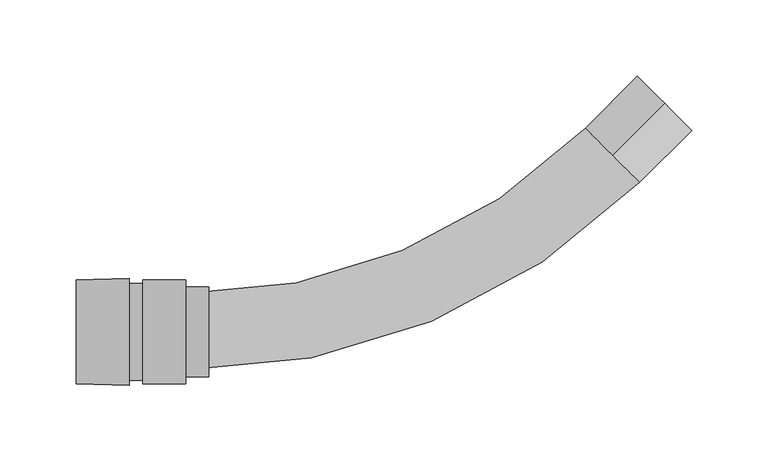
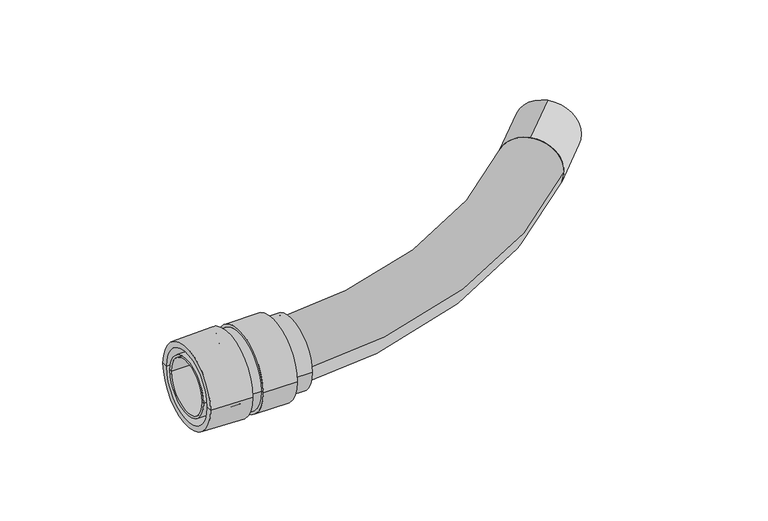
"""IFC4 building model written with IfcOpenShell, lengths in millimetres: cable carrier fitting geometry, КНС_МуфтаГибкаяТрубаКоробка_IP65_DKC : Коробка."""

import ifcopenshell
import ifcopenshell.guid

model = None  # the IFC model being written
_history = None  # IfcOwnerHistory: only IFC2X3 demands one
_inside = {}  # id of a spatial element -> (the spatial element, [elements in it])
_under = {}  # id of a project, library or spatial element -> (it, [spatial elements below it])
_declared = {}  # id of a project -> (the project, [libraries it declares])
_typed = {}  # id of a type object -> (the type object, [elements of that type])
_made_of = {}  # id of a material, layer set ... -> (it, [elements and type objects made of it])


def new_model(schema):
    """Start an empty IFC model of exactly this schema.

    Asked for "IFC4X3", IfcOpenShell would pick the latest addendum, in which some entities
    have other attributes; the version numbers below select the first issue.
    IFC2X3 requires an IfcOwnerHistory on every rooted entity: one is made here for all.
    """
    global model, _history
    if schema == "IFC4X3":
        model = ifcopenshell.file(schema_version=(4, 3, 0, 0))
    else:
        model = ifcopenshell.file(schema=schema)
    _inside.clear()
    _under.clear()
    _declared.clear()
    _typed.clear()
    _made_of.clear()
    _history = None
    if model.schema == "IFC2X3":
        org = make("IfcOrganization", Name="unknown")
        user = make(
            "IfcPersonAndOrganization",
            ThePerson=make("IfcPerson", FamilyName="unknown"),
            TheOrganization=org,
        )
        app = make(
            "IfcApplication",
            ApplicationDeveloper=org,
            Version="unknown",
            ApplicationFullName="unknown",
            ApplicationIdentifier="unknown",
        )
        _history = make(
            "IfcOwnerHistory",
            OwningUser=user,
            OwningApplication=app,
            ChangeAction="ADDED",
            CreationDate=0,
        )
    return model


def make(cls, **values):
    """One entity of the class cls with the attributes given. An attribute that is None is left unset."""
    return model.create_entity(
        cls, **{name: value for name, value in values.items() if value is not None}
    )


def rooted(cls, **values):
    """An entity with a GlobalId (a new one), such as an element, a storey or a relation."""
    return make(cls, GlobalId=ifcopenshell.guid.new(), OwnerHistory=_history, **values)


def si_unit(unit_type, name, prefix=None):
    """IfcSIUnit, for example si_unit("LENGTHUNIT", "METRE", prefix="MILLI")."""
    return make("IfcSIUnit", UnitType=unit_type, Prefix=prefix, Name=name)


def assignment(units):
    """IfcUnitAssignment: the units of a project."""
    return None if units is None else make("IfcUnitAssignment", Units=units)


def point(xyz):
    """IfcCartesianPoint."""
    return None if xyz is None else make("IfcCartesianPoint", Coordinates=xyz)


def direction(xyz):
    """IfcDirection."""
    return None if xyz is None else make("IfcDirection", DirectionRatios=xyz)


def frame(location, z_axis=None, x_axis=None):
    """IfcAxis2Placement3D, a coordinate frame: its origin and axes. An axis left out is left unset."""
    return make(
        "IfcAxis2Placement3D",
        Location=point(location),
        Axis=direction(z_axis),
        RefDirection=direction(x_axis),
    )


def frame_2d(location, x_axis=None):
    """IfcAxis2Placement2D, a coordinate frame in the plane: its origin and x axis."""
    return make(
        "IfcAxis2Placement2D", Location=point(location), RefDirection=direction(x_axis)
    )


def origin():
    """The frame at (0, 0, 0) with its axes left unset."""
    return frame((0.0, 0.0, 0.0))


def place(relative_to, where):
    """IfcLocalPlacement: puts the frame where relative to a parent placement (None: the world)."""
    return make(
        "IfcLocalPlacement", PlacementRelTo=relative_to, RelativePlacement=where
    )


def context(
    kind, dimensions, precision=None, world=None, true_north=None, identifier=None
):
    """IfcGeometricRepresentationContext, for example the 3D "Model" context."""
    return make(
        "IfcGeometricRepresentationContext",
        ContextIdentifier=identifier,
        ContextType=kind,
        CoordinateSpaceDimension=dimensions,
        Precision=precision,
        WorldCoordinateSystem=world,
        TrueNorth=true_north,
    )


def project(units=None, contexts=None):
    """IfcProject with its units and contexts."""
    return rooted(
        "IfcProject",
        Name="project",
        RepresentationContexts=contexts,
        UnitsInContext=assignment(units),
    )


def spatial(cls, under=None, at=None, **own):
    """A site, building, storey or space (cls), placed at a placement, below another one or the project."""
    s = rooted(cls, ObjectPlacement=at, **own)
    if under is not None:
        _under.setdefault(under.id(), (under, []))[1].append(s)
    return s


def polyline(points):
    """IfcPolyline through the points."""
    return make("IfcPolyline", Points=[point(p) for p in points])


def circle_curve(where, radius):
    """IfcCircle in the frame where."""
    return make("IfcCircle", Position=where, Radius=radius)


def ellipse_curve(where, semi_axis1, semi_axis2):
    """IfcEllipse in the frame where."""
    return make(
        "IfcEllipse", Position=where, SemiAxis1=semi_axis1, SemiAxis2=semi_axis2
    )


def trimmed(basis, trim1, trim2, sense, master):
    """IfcTrimmedCurve: the piece of a basis curve between two trims."""
    return make(
        "IfcTrimmedCurve",
        BasisCurve=basis,
        Trim1=trim1,
        Trim2=trim2,
        SenseAgreement=sense,
        MasterRepresentation=master,
    )


def segment(curve, same_sense, transition):
    """IfcCompositeCurveSegment."""
    return make(
        "IfcCompositeCurveSegment",
        Transition=transition,
        SameSense=same_sense,
        ParentCurve=curve,
    )


def composite_curve(segments, self_intersect=None):
    """IfcCompositeCurve: segments joined end to end."""
    return make("IfcCompositeCurve", Segments=segments, SelfIntersect=self_intersect)


def outline(outer, holes=None, kind="AREA"):
    """IfcArbitraryClosedProfileDef: a profile drawn as a closed curve; with holes, ...WithVoids."""
    if holes is None:
        return make("IfcArbitraryClosedProfileDef", ProfileType=kind, OuterCurve=outer)
    return make(
        "IfcArbitraryProfileDefWithVoids",
        ProfileType=kind,
        OuterCurve=outer,
        InnerCurves=holes,
    )


def extrude(swept, where, along, depth):
    """IfcExtrudedAreaSolid: the profile swept, set in the frame where, extruded along a direction by depth."""
    return make(
        "IfcExtrudedAreaSolid",
        SweptArea=swept,
        Position=where,
        ExtrudedDirection=direction(along),
        Depth=depth,
    )


def shape(context_of_items, identifier, shape_type, items):
    """IfcShapeRepresentation: the items that make up one representation, for example the "Body"."""
    return make(
        "IfcShapeRepresentation",
        ContextOfItems=context_of_items,
        RepresentationIdentifier=identifier,
        RepresentationType=shape_type,
        Items=items,
    )


def source(mapping_origin, context_of_items, identifier, shape_type, items):
    """IfcRepresentationMap: a shape defined once, which mapped items show again and again."""
    return make(
        "IfcRepresentationMap",
        MappingOrigin=mapping_origin,
        MappedRepresentation=shape(context_of_items, identifier, shape_type, items),
    )


def transform(
    local_origin,
    x_axis=None,
    y_axis=None,
    z_axis=None,
    scale=None,
    scale2=None,
    scale3=None,
    uniform=True,
):
    """IfcCartesianTransformationOperator3D, or its non-uniform kind. x_axis, y_axis, z_axis: its Axis1, 2, 3."""
    if uniform:
        return make(
            "IfcCartesianTransformationOperator3D",
            Axis1=direction(x_axis),
            Axis2=direction(y_axis),
            LocalOrigin=point(local_origin),
            Scale=scale,
            Axis3=direction(z_axis),
        )
    return make(
        "IfcCartesianTransformationOperator3DnonUniform",
        Axis1=direction(x_axis),
        Axis2=direction(y_axis),
        LocalOrigin=point(local_origin),
        Scale=scale,
        Axis3=direction(z_axis),
        Scale2=scale2,
        Scale3=scale3,
    )


def mapped(mapping_source, mapping_target):
    """IfcMappedItem: shows the shape of a source again, moved by a transform."""
    return make(
        "IfcMappedItem", MappingSource=mapping_source, MappingTarget=mapping_target
    )


def made_of(thing, what):
    """Note that an element or type object is made of a material, layer set ...; save() writes the relation."""
    if what is not None:
        _made_of.setdefault(what.id(), (what, []))[1].append(thing)
    return thing


def element(
    cls,
    number,
    at=None,
    inside=None,
    cuts=None,
    type_object=None,
    material=None,
    context=None,
    identifier="Body",
    shape_type=None,
    held_by="IfcProductDefinitionShape",
    body=None,
    shapes=None,
    **own,
):
    """One element of the class cls, such as IfcWall. Its Tag is "e" and its number.

    at: its placement. inside: the storey or other place that contains it. cuts: it is an
    opening in that element (IfcRelVoidsElement). A single representation is given by context,
    identifier, shape_type and body (its items); several are given by shapes. held_by: the class
    of the entity that holds the representations. save() writes the other relations.
    """
    e = rooted(cls, Tag="e%d" % number, ObjectPlacement=at, **own)
    if body is not None:
        shapes = [shape(context, identifier, shape_type, body)]
    if shapes is not None:
        e.Representation = make(held_by, Representations=shapes)
    if inside is not None:
        _inside.setdefault(inside.id(), (inside, []))[1].append(e)
    if cuts is not None:
        rooted(
            "IfcRelVoidsElement", RelatingBuildingElement=cuts, RelatedOpeningElement=e
        )
    if type_object is not None:
        _typed.setdefault(type_object.id(), (type_object, []))[1].append(e)
    return made_of(e, material)


def aggregate(whole, parts):
    """IfcRelAggregates: a whole, such as a stair, and the parts it consists of."""
    return rooted("IfcRelAggregates", RelatingObject=whole, RelatedObjects=parts)


def save(model, path):
    """Write the relations noted so far, then the file.

    IfcRelAggregates (storeys below a building ...), IfcRelContainedInSpatialStructure (elements
    in a storey), IfcRelDefinesByType, IfcRelAssociatesMaterial and IfcRelDeclares: one each for
    every whole, place, type object, material and project.
    """
    for whole, parts in _under.values():
        aggregate(whole, parts)
    for where, things in _inside.values():
        rooted(
            "IfcRelContainedInSpatialStructure",
            RelatedElements=things,
            RelatingStructure=where,
        )
    for kind, things in _typed.values():
        rooted("IfcRelDefinesByType", RelatedObjects=things, RelatingType=kind)
    for what, things in _made_of.values():
        rooted("IfcRelAssociatesMaterial", RelatedObjects=things, RelatingMaterial=what)
    for by, libraries in _declared.values():
        rooted("IfcRelDeclares", RelatingContext=by, RelatedDefinitions=libraries)
    model.write(path)


def plane_surface(at):
    """IfcPlane: the flat surface through the origin of the frame at, square to its z axis."""
    return make("IfcPlane", Position=at)


def cylinder_surface(at, radius):
    """IfcCylindricalSurface: all points at the distance radius from the z axis of the frame at."""
    return make("IfcCylindricalSurface", Position=at, Radius=radius)


def revolved_surface(curve, axis_point, axis_direction):
    """IfcSurfaceOfRevolution: the curve turned about the line through axis_point along axis_direction."""
    return make(
        "IfcSurfaceOfRevolution",
        SweptCurve=make("IfcArbitraryOpenProfileDef", ProfileType="CURVE", Curve=curve),
        AxisPosition=make("IfcAxis1Placement", Location=point(axis_point), Axis=direction(axis_direction)),
    )


def advanced_brep(points, edges, surfaces, faces):
    """IfcAdvancedBrep: a solid bounded by faces that lie on surfaces and meet in shared edges.

    An edge is (start, end): straight between two places in points (the first is 0);
    or (start, end, curve); or (start, end, curve, False) where it runs against its curve.
    A face is (place in surfaces, loops), or (place, loops, False) where it looks against
    its surface's normal. A loop lists edges by number (the first is 1), with a minus sign
    where the edge is run from its end to its start. The first loop is the outer one.
    """
    corners = [point(p) for p in points]
    vertices = [make("IfcVertexPoint", VertexGeometry=c) for c in corners]
    made = []
    for start, end, *more in edges:
        made.append(
            make(
                "IfcEdgeCurve",
                EdgeStart=vertices[start],
                EdgeEnd=vertices[end],
                EdgeGeometry=more[0] if more else make("IfcPolyline", Points=[corners[start], corners[end]]),
                SameSense=more[1] if len(more) > 1 else True,
            )
        )
    hull = []
    for where, loops, *sense in faces:
        bounds = []
        for j, loop in enumerate(loops):
            ring = [make("IfcOrientedEdge", EdgeElement=made[abs(k) - 1], Orientation=k > 0) for k in loop]
            bounds.append(
                make(
                    "IfcFaceOuterBound" if j == 0 else "IfcFaceBound",
                    Bound=make("IfcEdgeLoop", EdgeList=ring),
                    Orientation=True,
                )
            )
        hull.append(make("IfcAdvancedFace", Bounds=bounds, FaceSurface=surfaces[where], SameSense=sense[0] if sense else True))
    return make("IfcAdvancedBrep", Outer=make("IfcClosedShell", CfsFaces=hull))


def cable_carrier_fitting_b6fb6266(model_context):
    return source(origin(), model_context, "Body", "SolidModel", [
        advanced_brep(
        [(-148.4918571, -27.4353846, 0.0), (-148.4918571, 27.4353846, 0.0), (-200.4918571, 27.4353846, 0.0), (-200.4918571, -27.4353846, 0.0), (-148.4918571, -29.5, 0.0), (-148.4918571, 29.5, 0.0), (-163.4918571, -29.5, 0.0), (-163.4918571, 29.5, 0.0), (-163.4918571, -34.0, 0.0), (-163.4918571, 34.0, 0.0), (-191.4918571, -34.0, 0.0), (-191.4918571, 34.0, 0.0), (-191.4918571, -31.75, 0.0), (-191.4918571, 31.75, 0.0), (-200.4918571, -31.75, 0.0), (-200.4918571, 31.75, 0.0)],
        [
            (0, 1, circle_curve(frame((-148.4918571, 0.0, 0.0), z_axis=(1.0, 0.0, 0.0), x_axis=(0.0, 1.0, 0.0)), 27.4353846)),
            (1, 2),
            (2, 3, circle_curve(frame((-200.4918571, 0.0, 0.0), z_axis=(-1.0, 0.0, 0.0), x_axis=(0.0, 1.0, 0.0)), 27.4353846)),
            (3, 0),
            (1, 0, circle_curve(frame((-148.4918571, 0.0, 0.0), z_axis=(1.0, 0.0, 0.0), x_axis=(0.0, 1.0, 0.0)), 27.4353846)),
            (3, 2, circle_curve(frame((-200.4918571, 0.0, 0.0), z_axis=(-1.0, 0.0, 0.0), x_axis=(0.0, 1.0, 0.0)), 27.4353846)),
            (4, 5, circle_curve(frame((-148.4918571, 0.0, 0.0), z_axis=(1.0, 0.0, 0.0), x_axis=(0.0, 1.0, 0.0)), 29.5)),
            (5, 1),
            (0, 4),
            (5, 4, circle_curve(frame((-148.4918571, 0.0, 0.0), z_axis=(1.0, 0.0, 0.0), x_axis=(0.0, 1.0, 0.0)), 29.5)),
            (6, 7, circle_curve(frame((-163.4918571, 0.0, 0.0), z_axis=(1.0, 0.0, 0.0), x_axis=(0.0, 1.0, 0.0)), 29.5)),
            (7, 5),
            (4, 6),
            (7, 6, circle_curve(frame((-163.4918571, 0.0, 0.0), z_axis=(1.0, 0.0, 0.0), x_axis=(0.0, 1.0, 0.0)), 29.5)),
            (8, 9, circle_curve(frame((-163.4918571, 0.0, 0.0), z_axis=(1.0, 0.0, 0.0), x_axis=(0.0, 1.0, 0.0)), 34.0)),
            (9, 7),
            (6, 8),
            (9, 8, circle_curve(frame((-163.4918571, 0.0, 0.0), z_axis=(1.0, 0.0, 0.0), x_axis=(0.0, 1.0, 0.0)), 34.0)),
            (10, 11, circle_curve(frame((-191.4918571, 0.0, 0.0), z_axis=(1.0, 0.0, 0.0), x_axis=(0.0, 1.0, 0.0)), 34.0)),
            (11, 9),
            (8, 10),
            (11, 10, circle_curve(frame((-191.4918571, 0.0, 0.0), z_axis=(1.0, 0.0, 0.0), x_axis=(0.0, 1.0, 0.0)), 34.0)),
            (12, 13, circle_curve(frame((-191.4918571, 0.0, 0.0), z_axis=(1.0, 0.0, 0.0), x_axis=(0.0, 1.0, 0.0)), 31.75)),
            (13, 11),
            (10, 12),
            (13, 12, circle_curve(frame((-191.4918571, 0.0, 0.0), z_axis=(1.0, 0.0, 0.0), x_axis=(0.0, 1.0, 0.0)), 31.75)),
            (14, 15, circle_curve(frame((-200.4918571, 0.0, 0.0), z_axis=(1.0, 0.0, 0.0), x_axis=(0.0, 1.0, 0.0)), 31.75)),
            (15, 13),
            (12, 14),
            (15, 14, circle_curve(frame((-200.4918571, 0.0, 0.0), z_axis=(1.0, 0.0, 0.0), x_axis=(0.0, 1.0, 0.0)), 31.75)),
            (2, 15),
            (14, 3),
        ],
        [
            revolved_surface(polyline([(-200.49185710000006, 27.4353846, 0.0), (-148.49185710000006, 27.4353846, 0.0)]), (1340.0081429, 0.0, 0.0), (-1.0, 0.0, 0.0)),
            plane_surface(frame((-148.4918571, 0.0, 0.0), z_axis=(1.0, 0.0, 0.0), x_axis=(0.0, 1.0, 0.0))),
            cylinder_surface(frame((1340.0081429, 0.0, 0.0), z_axis=(-1.0, 0.0, 0.0), x_axis=(0.0, 1.0, 0.0)), 29.5),
            plane_surface(frame((-163.4918571, 0.0, 0.0), z_axis=(1.0, 0.0, 0.0), x_axis=(0.0, 1.0, 0.0))),
            cylinder_surface(frame((1340.0081429, 0.0, 0.0), z_axis=(-1.0, 0.0, 0.0), x_axis=(0.0, 1.0, 0.0)), 34.0),
            plane_surface(frame((-191.4918571, 0.0, 0.0), z_axis=(-1.0, 0.0, 0.0), x_axis=(0.0, 1.0, 0.0))),
            cylinder_surface(frame((1340.0081429, 0.0, 0.0), z_axis=(-1.0, 0.0, 0.0), x_axis=(0.0, 1.0, 0.0)), 31.75),
            plane_surface(frame((-200.4918571, 0.0, 0.0), z_axis=(-1.0, 0.0, 0.0), x_axis=(0.0, 1.0, 0.0))),
        ],
        [
            (0, [[1, 2, 3, 4]]),
            (0, [[5, -4, 6, -2]]),
            (1, [[7, 8, -1, 9]]),
            (1, [[10, -9, -5, -8]]),
            (2, [[11, 12, -7, 13]]),
            (2, [[14, -13, -10, -12]]),
            (3, [[15, 16, -11, 17]]),
            (3, [[18, -17, -14, -16]]),
            (4, [[19, 20, -15, 21]]),
            (4, [[22, -21, -18, -20]]),
            (5, [[23, 24, -19, 25]]),
            (5, [[26, -25, -22, -24]]),
            (6, [[27, 28, -23, 29]]),
            (6, [[30, -29, -26, -28]]),
            (7, [[-3, 31, -27, 32]]),
            (7, [[-6, -32, -30, -31]]),
        ],
    ),
        advanced_brep(
        [(-200.4918571, -35.0, 0.0), (-200.4918571, 35.0, 0.0), (-200.4918571, 29.5, 0.0), (-200.4918571, -29.5, 0.0), (-234.9918571, -34.0, 0.0), (-234.9918571, 34.0, 0.0), (-234.9918571, -29.5, 0.0), (-234.9918571, 29.5, 0.0)],
        [
            (0, 1, circle_curve(frame((-200.4918571, 0.0, 0.0), z_axis=(1.0, 0.0, 0.0), x_axis=(0.0, 1.0, 0.0)), 35.0)),
            (1, 2),
            (2, 3, circle_curve(frame((-200.4918571, 0.0, 0.0), z_axis=(-1.0, 0.0, 0.0), x_axis=(0.0, 1.0, 0.0)), 29.5)),
            (3, 0),
            (1, 0, circle_curve(frame((-200.4918571, 0.0, 0.0), z_axis=(1.0, 0.0, 0.0), x_axis=(0.0, 1.0, 0.0)), 35.0)),
            (3, 2, circle_curve(frame((-200.4918571, 0.0, 0.0), z_axis=(-1.0, 0.0, 0.0), x_axis=(0.0, 1.0, 0.0)), 29.5)),
            (4, 5, circle_curve(frame((-234.9918571, 0.0, 0.0), z_axis=(1.0, 0.0, 0.0), x_axis=(0.0, 1.0, 0.0)), 34.0)),
            (5, 1),
            (0, 4),
            (5, 4, circle_curve(frame((-234.9918571, 0.0, 0.0), z_axis=(1.0, 0.0, 0.0), x_axis=(0.0, 1.0, 0.0)), 34.0)),
            (6, 7, circle_curve(frame((-234.9918571, 0.0, 0.0), z_axis=(1.0, 0.0, 0.0), x_axis=(0.0, 1.0, 0.0)), 29.5)),
            (7, 5),
            (4, 6),
            (7, 6, circle_curve(frame((-234.9918571, 0.0, 0.0), z_axis=(1.0, 0.0, 0.0), x_axis=(0.0, 1.0, 0.0)), 29.5)),
            (2, 7),
            (6, 3),
        ],
        [
            plane_surface(frame((-200.4918571, 0.0, 0.0), z_axis=(1.0, 0.0, 0.0), x_axis=(0.0, 1.0, 0.0))),
            revolved_surface(polyline([(-200.4918571, 35.0, 0.0), (-234.9918571, 34.0, 0.0)]), (1340.0081429, 0.0, 0.0), (-1.0, 0.0, 0.0)),
            plane_surface(frame((-234.9918571, 0.0, 0.0), z_axis=(-1.0, 0.0, 0.0), x_axis=(0.0, 1.0, 0.0))),
            revolved_surface(polyline([(-234.99185710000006, 29.5, 0.0), (-200.49185710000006, 29.5, 0.0)]), (1340.0081429, 0.0, 0.0), (-1.0, 0.0, 0.0)),
        ],
        [
            (0, [[1, 2, 3, 4]]),
            (0, [[5, -4, 6, -2]]),
            (1, [[7, 8, -1, 9]]),
            (1, [[10, -9, -5, -8]]),
            (2, [[11, 12, -7, 13]]),
            (2, [[14, -13, -10, -12]]),
            (3, [[-3, 15, -11, 16]]),
            (3, [[-6, -16, -14, -15]]),
        ],
    ),
        advanced_brep(
        [(-234.9918571, -24.0, 0.0), (-234.9918571, 24.0, 0.0), (-200.4918571, 24.0, 0.0), (-200.4918571, -24.0, 0.0), (-234.9918571, -22.0, 0.0), (-234.9918571, 22.0, 0.0), (-200.4918571, -22.0, 0.0), (-200.4918571, 22.0, 0.0)],
        [
            (0, 1, circle_curve(frame((-234.9918571, 0.0, 0.0), z_axis=(1.0, 0.0, 0.0), x_axis=(0.0, 1.0, 0.0)), 24.0)),
            (1, 2),
            (2, 3, circle_curve(frame((-200.4918571, 0.0, 0.0), z_axis=(-1.0, 0.0, 0.0), x_axis=(0.0, 1.0, 0.0)), 24.0)),
            (3, 0),
            (1, 0, circle_curve(frame((-234.9918571, 0.0, 0.0), z_axis=(1.0, 0.0, 0.0), x_axis=(0.0, 1.0, 0.0)), 24.0)),
            (3, 2, circle_curve(frame((-200.4918571, 0.0, 0.0), z_axis=(-1.0, 0.0, 0.0), x_axis=(0.0, 1.0, 0.0)), 24.0)),
            (4, 5, circle_curve(frame((-234.9918571, 0.0, 0.0), z_axis=(1.0, 0.0, 0.0), x_axis=(0.0, 1.0, 0.0)), 22.0)),
            (5, 1),
            (0, 4),
            (5, 4, circle_curve(frame((-234.9918571, 0.0, 0.0), z_axis=(1.0, 0.0, 0.0), x_axis=(0.0, 1.0, 0.0)), 22.0)),
            (6, 7, circle_curve(frame((-200.4918571, 0.0, 0.0), z_axis=(1.0, 0.0, 0.0), x_axis=(0.0, 1.0, 0.0)), 22.0)),
            (7, 5),
            (4, 6),
            (7, 6, circle_curve(frame((-200.4918571, 0.0, 0.0), z_axis=(1.0, 0.0, 0.0), x_axis=(0.0, 1.0, 0.0)), 22.0)),
            (2, 7),
            (6, 3),
        ],
        [
            cylinder_surface(frame((1340.0081429, 0.0, 0.0), z_axis=(-1.0, 0.0, 0.0), x_axis=(0.0, 1.0, 0.0)), 24.0),
            plane_surface(frame((-234.9918571, 0.0, 0.0), z_axis=(-1.0, 0.0, 0.0), x_axis=(0.0, 1.0, 0.0))),
            revolved_surface(polyline([(-234.99185710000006, 22.0, 0.0), (-200.49185710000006, 22.0, 0.0)]), (1340.0081429, 0.0, 0.0), (-1.0, 0.0, 0.0)),
            plane_surface(frame((-200.4918571, 0.0, 0.0), z_axis=(1.0, 0.0, 0.0), x_axis=(0.0, 1.0, 0.0))),
        ],
        [
            (0, [[1, 2, 3, 4]]),
            (0, [[5, -4, 6, -2]]),
            (1, [[7, 8, -1, 9]]),
            (1, [[10, -9, -5, -8]]),
            (2, [[11, 12, -7, 13]]),
            (2, [[14, -13, -10, -12]]),
            (3, [[-3, 15, -11, 16]]),
            (3, [[-6, -16, -14, -15]]),
        ],
    ),
        extrude(outline(composite_curve([segment(trimmed(circle_curve(frame_2d((0.0, -25.0)), 25.0), [point((0.0, -50.0))], [point((0.0, 0.0))], False, "CARTESIAN"), True, "CONTINUOUS"), segment(trimmed(circle_curve(frame_2d((0.0, -25.0)), 25.0), [point((0.0, 0.0))], [point((0.0, -50.0))], False, "CARTESIAN"), True, "CONTINUOUS")], self_intersect=False), holes=[composite_curve([segment(trimmed(circle_curve(frame_2d((0.0, -25.0)), 24.0), [point((0.0, -49.0))], [point((0.0, -1.0))], True, "CARTESIAN"), True, "CONTINUOUS"), segment(trimmed(circle_curve(frame_2d((0.0, -25.0)), 24.0), [point((0.0, -1.0))], [point((0.0, -49.0))], True, "CARTESIAN"), True, "CONTINUOUS")], self_intersect=False)]), frame((115.6062009, 115.6062009, 25.0), z_axis=(0.7071067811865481, 0.7071067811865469, 0.0), x_axis=(-0.7071067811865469, 0.7071067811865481, 0.0)), (0.0, 0.0, 1.0), 48.0),
        advanced_brep(
        [(97.9285313, 133.2838704, 0.0), (133.2838704, 97.9285313, 0.0), (-163.4918571, 25.0, 0.0), (-163.4918571, -25.0, 0.0)],
        [
            (0, 1, circle_curve(frame((115.6062009, 115.6062009, 0.0), z_axis=(0.7071067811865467, 0.7071067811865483, 0.0), x_axis=(0.7071067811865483, -0.7071067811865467, 0.0)), 25.0)),
            (1, 0, circle_curve(frame((115.6062009, 115.6062009, 0.0), z_axis=(0.7071067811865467, 0.7071067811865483, 0.0), x_axis=(0.7071067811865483, -0.7071067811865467, 0.0)), 25.0)),
            (2, 3, circle_curve(frame((-163.4918571, 0.0, 0.0), z_axis=(-1.0, 0.0, 0.0), x_axis=(0.0, -1.0, 0.0)), 25.0)),
            (3, 2, circle_curve(frame((-163.4918571, 0.0, 0.0), z_axis=(-1.0, 0.0, 0.0), x_axis=(0.0, -1.0, 0.0)), 25.0)),
            (3, 1, circle_curve(frame((-163.4918571, 394.7042589, 0.0), z_axis=(0.0, 0.0, 1.0), x_axis=(0.7071067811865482, -0.7071067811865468, 0.0)), 419.7042589)),
            (0, 2, circle_curve(frame((-163.4918571, 394.7042589, 0.0), z_axis=(0.0, 0.0, -1.0), x_axis=(0.7071067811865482, -0.7071067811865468, 0.0)), 369.7042589)),
        ],
        [
            plane_surface(frame((115.6062009, 115.6062009, 0.0), z_axis=(0.7071067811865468, 0.7071067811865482, 0.0), x_axis=(0.0, 0.0, 1.0))),
            plane_surface(frame((-163.4918571, 0.0, 0.0), z_axis=(-1.0, 0.0, 0.0), x_axis=(0.0, 0.0, 1.0))),
            revolved_surface(trimmed(ellipse_curve(frame((115.6062009, 115.6062009, 0.0), z_axis=(0.7071067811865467, 0.7071067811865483, 0.0), x_axis=(0.7071067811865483, -0.7071067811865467, 0.0)), 25.0, 25.0), [point((97.9285313, 133.2838704, 0.0))], [point((133.2838704, 97.9285313, 0.0))], True, "CARTESIAN"), (-163.4918571, 394.7042589, 0.0), (0.0, 0.0, -1.0)),
            revolved_surface(trimmed(ellipse_curve(frame((115.6062009, 115.6062009, 0.0), z_axis=(0.7071067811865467, 0.7071067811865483, 0.0), x_axis=(0.7071067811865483, -0.7071067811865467, 0.0)), 25.0, 25.0), [point((133.2838704, 97.9285313, 0.0))], [point((97.9285313, 133.2838704, 0.0))], True, "CARTESIAN"), (-163.4918571, 394.7042589, 0.0), (0.0, 0.0, -1.0)),
        ],
        [
            (0, [[1, 2]]),
            (1, [[3, 4]]),
            (2, [[5, -1, 6, -4]]),
            (3, [[-6, -2, -5, -3]]),
        ],
    ),
    ])


if __name__ == "__main__":
    model = new_model("IFC4")
    model_context = context("Model", 3, world=origin())
    ifc_project = project(units=[si_unit("LENGTHUNIT", "METRE", prefix="MILLI")], contexts=[model_context])
    site = spatial("IfcSite", under=ifc_project)
    building = spatial("IfcBuilding", under=site)
    placement = place(None, origin())
    cable_carrier_fitting_shape = cable_carrier_fitting_b6fb6266(model_context)
    element("IfcCableCarrierFitting", 1, ObjectType="КНС_МуфтаГибкаяТрубаКоробка_IP65_DKC : Коробка", at=placement, inside=building, context=model_context, shape_type="MappedRepresentation", body=[
        mapped(cable_carrier_fitting_shape, transform((0.0, 0.0, 0.0), x_axis=(1.0, 0.0, 0.0), y_axis=(0.0, 1.0, 0.0), z_axis=(0.0, 0.0, 1.0))),
    ])
    save(model, "model.ifc")
